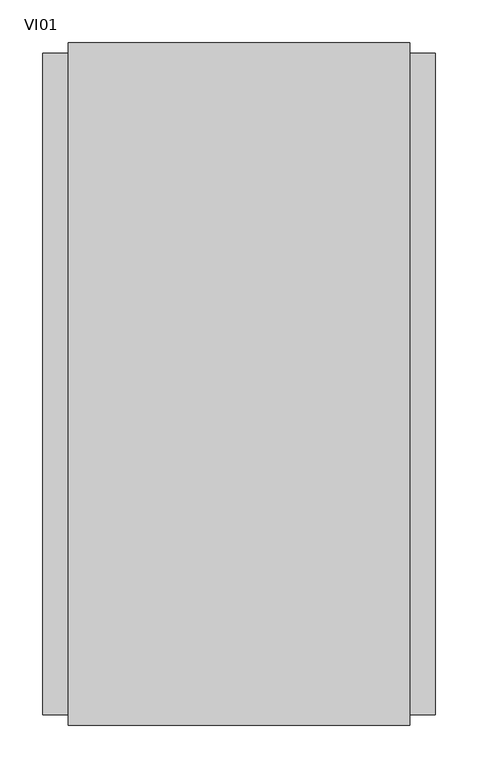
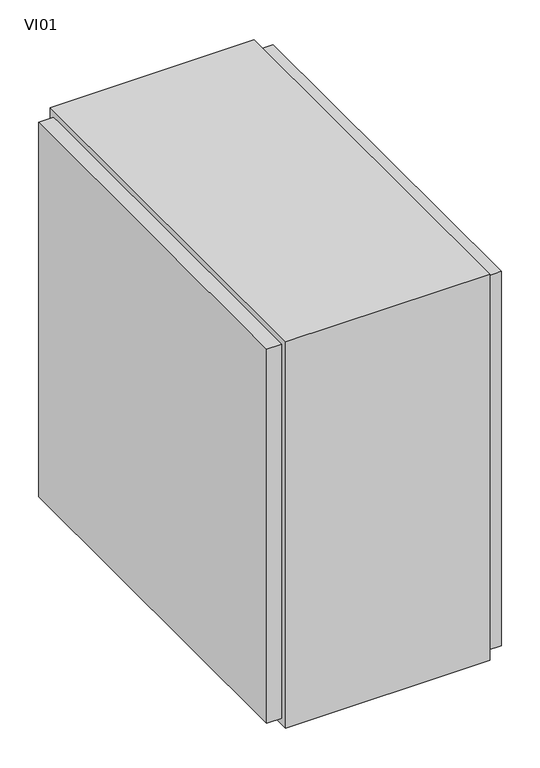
"""IFC4 building model written with IfcOpenShell, lengths in millimetres: proxy geometry, ZYR_03.06.01 Ventilador Caixa SobrePressio : VI01."""

import ifcopenshell
import ifcopenshell.guid

model = None  # the IFC model being written
_history = None  # IfcOwnerHistory: only IFC2X3 demands one
_inside = {}  # id of a spatial element -> (the spatial element, [elements in it])
_under = {}  # id of a project, library or spatial element -> (it, [spatial elements below it])
_declared = {}  # id of a project -> (the project, [libraries it declares])
_typed = {}  # id of a type object -> (the type object, [elements of that type])
_made_of = {}  # id of a material, layer set ... -> (it, [elements and type objects made of it])


def new_model(schema):
    """Start an empty IFC model of exactly this schema.

    Asked for "IFC4X3", IfcOpenShell would pick the latest addendum, in which some entities
    have other attributes; the version numbers below select the first issue.
    IFC2X3 requires an IfcOwnerHistory on every rooted entity: one is made here for all.
    """
    global model, _history
    if schema == "IFC4X3":
        model = ifcopenshell.file(schema_version=(4, 3, 0, 0))
    else:
        model = ifcopenshell.file(schema=schema)
    _inside.clear()
    _under.clear()
    _declared.clear()
    _typed.clear()
    _made_of.clear()
    _history = None
    if model.schema == "IFC2X3":
        org = make("IfcOrganization", Name="unknown")
        user = make(
            "IfcPersonAndOrganization",
            ThePerson=make("IfcPerson", FamilyName="unknown"),
            TheOrganization=org,
        )
        app = make(
            "IfcApplication",
            ApplicationDeveloper=org,
            Version="unknown",
            ApplicationFullName="unknown",
            ApplicationIdentifier="unknown",
        )
        _history = make(
            "IfcOwnerHistory",
            OwningUser=user,
            OwningApplication=app,
            ChangeAction="ADDED",
            CreationDate=0,
        )
    return model


def make(cls, **values):
    """One entity of the class cls with the attributes given. An attribute that is None is left unset."""
    return model.create_entity(
        cls, **{name: value for name, value in values.items() if value is not None}
    )


def rooted(cls, **values):
    """An entity with a GlobalId (a new one), such as an element, a storey or a relation."""
    return make(cls, GlobalId=ifcopenshell.guid.new(), OwnerHistory=_history, **values)


def si_unit(unit_type, name, prefix=None):
    """IfcSIUnit, for example si_unit("LENGTHUNIT", "METRE", prefix="MILLI")."""
    return make("IfcSIUnit", UnitType=unit_type, Prefix=prefix, Name=name)


def assignment(units):
    """IfcUnitAssignment: the units of a project."""
    return None if units is None else make("IfcUnitAssignment", Units=units)


def point(xyz):
    """IfcCartesianPoint."""
    return None if xyz is None else make("IfcCartesianPoint", Coordinates=xyz)


def direction(xyz):
    """IfcDirection."""
    return None if xyz is None else make("IfcDirection", DirectionRatios=xyz)


def frame(location, z_axis=None, x_axis=None):
    """IfcAxis2Placement3D, a coordinate frame: its origin and axes. An axis left out is left unset."""
    return make(
        "IfcAxis2Placement3D",
        Location=point(location),
        Axis=direction(z_axis),
        RefDirection=direction(x_axis),
    )


def origin():
    """The frame at (0, 0, 0) with its axes left unset."""
    return frame((0.0, 0.0, 0.0))


def origin_with_axes():
    """The frame at (0, 0, 0) with the z axis (0, 0, 1) and the x axis (1, 0, 0) written out."""
    return frame((0.0, 0.0, 0.0), z_axis=(0.0, 0.0, 1.0), x_axis=(1.0, 0.0, 0.0))


def place(relative_to, where):
    """IfcLocalPlacement: puts the frame where relative to a parent placement (None: the world)."""
    return make(
        "IfcLocalPlacement", PlacementRelTo=relative_to, RelativePlacement=where
    )


def context(
    kind, dimensions, precision=None, world=None, true_north=None, identifier=None
):
    """IfcGeometricRepresentationContext, for example the 3D "Model" context."""
    return make(
        "IfcGeometricRepresentationContext",
        ContextIdentifier=identifier,
        ContextType=kind,
        CoordinateSpaceDimension=dimensions,
        Precision=precision,
        WorldCoordinateSystem=world,
        TrueNorth=true_north,
    )


def project(units=None, contexts=None):
    """IfcProject with its units and contexts."""
    return rooted(
        "IfcProject",
        Name="project",
        RepresentationContexts=contexts,
        UnitsInContext=assignment(units),
    )


def spatial(cls, under=None, at=None, **own):
    """A site, building, storey or space (cls), placed at a placement, below another one or the project."""
    s = rooted(cls, ObjectPlacement=at, **own)
    if under is not None:
        _under.setdefault(under.id(), (under, []))[1].append(s)
    return s


def polyline(points):
    """IfcPolyline through the points."""
    return make("IfcPolyline", Points=[point(p) for p in points])


def outline(outer, holes=None, kind="AREA"):
    """IfcArbitraryClosedProfileDef: a profile drawn as a closed curve; with holes, ...WithVoids."""
    if holes is None:
        return make("IfcArbitraryClosedProfileDef", ProfileType=kind, OuterCurve=outer)
    return make(
        "IfcArbitraryProfileDefWithVoids",
        ProfileType=kind,
        OuterCurve=outer,
        InnerCurves=holes,
    )


def extrude(swept, where, along, depth):
    """IfcExtrudedAreaSolid: the profile swept, set in the frame where, extruded along a direction by depth."""
    return make(
        "IfcExtrudedAreaSolid",
        SweptArea=swept,
        Position=where,
        ExtrudedDirection=direction(along),
        Depth=depth,
    )


def shape(context_of_items, identifier, shape_type, items):
    """IfcShapeRepresentation: the items that make up one representation, for example the "Body"."""
    return make(
        "IfcShapeRepresentation",
        ContextOfItems=context_of_items,
        RepresentationIdentifier=identifier,
        RepresentationType=shape_type,
        Items=items,
    )


def source(mapping_origin, context_of_items, identifier, shape_type, items):
    """IfcRepresentationMap: a shape defined once, which mapped items show again and again."""
    return make(
        "IfcRepresentationMap",
        MappingOrigin=mapping_origin,
        MappedRepresentation=shape(context_of_items, identifier, shape_type, items),
    )


def transform(
    local_origin,
    x_axis=None,
    y_axis=None,
    z_axis=None,
    scale=None,
    scale2=None,
    scale3=None,
    uniform=True,
):
    """IfcCartesianTransformationOperator3D, or its non-uniform kind. x_axis, y_axis, z_axis: its Axis1, 2, 3."""
    if uniform:
        return make(
            "IfcCartesianTransformationOperator3D",
            Axis1=direction(x_axis),
            Axis2=direction(y_axis),
            LocalOrigin=point(local_origin),
            Scale=scale,
            Axis3=direction(z_axis),
        )
    return make(
        "IfcCartesianTransformationOperator3DnonUniform",
        Axis1=direction(x_axis),
        Axis2=direction(y_axis),
        LocalOrigin=point(local_origin),
        Scale=scale,
        Axis3=direction(z_axis),
        Scale2=scale2,
        Scale3=scale3,
    )


def mapped(mapping_source, mapping_target):
    """IfcMappedItem: shows the shape of a source again, moved by a transform."""
    return make(
        "IfcMappedItem", MappingSource=mapping_source, MappingTarget=mapping_target
    )


def made_of(thing, what):
    """Note that an element or type object is made of a material, layer set ...; save() writes the relation."""
    if what is not None:
        _made_of.setdefault(what.id(), (what, []))[1].append(thing)
    return thing


def element(
    cls,
    number,
    at=None,
    inside=None,
    cuts=None,
    type_object=None,
    material=None,
    context=None,
    identifier="Body",
    shape_type=None,
    held_by="IfcProductDefinitionShape",
    body=None,
    shapes=None,
    **own,
):
    """One element of the class cls, such as IfcWall. Its Tag is "e" and its number.

    at: its placement. inside: the storey or other place that contains it. cuts: it is an
    opening in that element (IfcRelVoidsElement). A single representation is given by context,
    identifier, shape_type and body (its items); several are given by shapes. held_by: the class
    of the entity that holds the representations. save() writes the other relations.
    """
    e = rooted(cls, Tag="e%d" % number, ObjectPlacement=at, **own)
    if body is not None:
        shapes = [shape(context, identifier, shape_type, body)]
    if shapes is not None:
        e.Representation = make(held_by, Representations=shapes)
    if inside is not None:
        _inside.setdefault(inside.id(), (inside, []))[1].append(e)
    if cuts is not None:
        rooted(
            "IfcRelVoidsElement", RelatingBuildingElement=cuts, RelatedOpeningElement=e
        )
    if type_object is not None:
        _typed.setdefault(type_object.id(), (type_object, []))[1].append(e)
    return made_of(e, material)


def aggregate(whole, parts):
    """IfcRelAggregates: a whole, such as a stair, and the parts it consists of."""
    return rooted("IfcRelAggregates", RelatingObject=whole, RelatedObjects=parts)


def save(model, path):
    """Write the relations noted so far, then the file.

    IfcRelAggregates (storeys below a building ...), IfcRelContainedInSpatialStructure (elements
    in a storey), IfcRelDefinesByType, IfcRelAssociatesMaterial and IfcRelDeclares: one each for
    every whole, place, type object, material and project.
    """
    for whole, parts in _under.values():
        aggregate(whole, parts)
    for where, things in _inside.values():
        rooted(
            "IfcRelContainedInSpatialStructure",
            RelatedElements=things,
            RelatingStructure=where,
        )
    for kind, things in _typed.values():
        rooted("IfcRelDefinesByType", RelatedObjects=things, RelatingType=kind)
    for what, things in _made_of.values():
        rooted("IfcRelAssociatesMaterial", RelatedObjects=things, RelatingMaterial=what)
    for by, libraries in _declared.values():
        rooted("IfcRelDeclares", RelatingContext=by, RelatedDefinitions=libraries)
    model.write(path)


def vi01_434bcbf7(model_context):
    return source(origin(), model_context, "Body", "SweptSolid", [
        extrude(outline(polyline([(200.0, 400.0), (200.0, -400.0), (-200.0, -400.0), (-200.0, 400.0), (200.0, 400.0)])), origin_with_axes(), (0.0, 0.0, 1.0), 800.0),
        extrude(outline(polyline([(230.0, 387.5), (230.0, -387.5), (200.0, -387.5), (200.0, 387.5), (230.0, 387.5)])), frame((0.0, 0.0, 12.5), z_axis=(0.0, 0.0, 1.0), x_axis=(1.0, 0.0, 0.0)), (0.0, 0.0, 1.0), 775.0),
        extrude(outline(polyline([(-200.0, 387.5), (-200.0, -387.5), (-230.0, -387.5), (-230.0, 387.5), (-200.0, 387.5)])), frame((0.0, 0.0, 12.5), z_axis=(0.0, 0.0, 1.0), x_axis=(1.0, 0.0, 0.0)), (0.0, 0.0, 1.0), 775.0),
    ])


if __name__ == "__main__":
    model = new_model("IFC4")
    model_context = context("Model", 3, world=origin())
    ifc_project = project(units=[si_unit("LENGTHUNIT", "METRE", prefix="MILLI")], contexts=[model_context])
    site = spatial("IfcSite", under=ifc_project)
    building = spatial("IfcBuilding", under=site)
    placement = place(None, origin())
    vi01_shape = vi01_434bcbf7(model_context)
    element("IfcBuildingElementProxy", 1, Name="ZYR_03.06.01 Ventilador Caixa SobrePressio : VI01", ObjectType="ZYR_03.06.01 Ventilador Caixa SobrePressio : VI01", at=placement, inside=building, context=model_context, shape_type="MappedRepresentation", body=[
        mapped(vi01_shape, transform((0.0, 0.0, 0.0), x_axis=(1.0, 0.0, 0.0), y_axis=(0.0, 1.0, 0.0), z_axis=(0.0, 0.0, 1.0))),
    ])
    save(model, "model.ifc")
